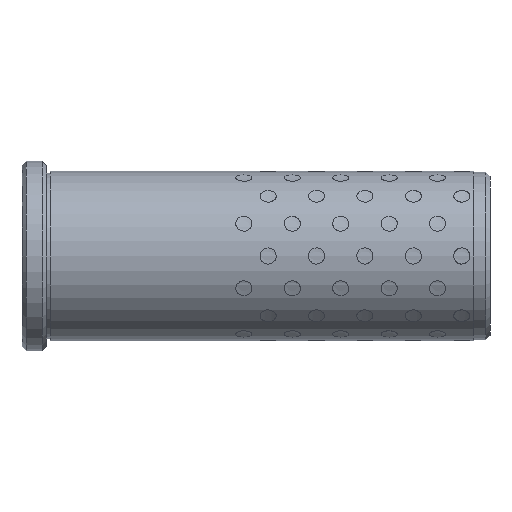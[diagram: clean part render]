
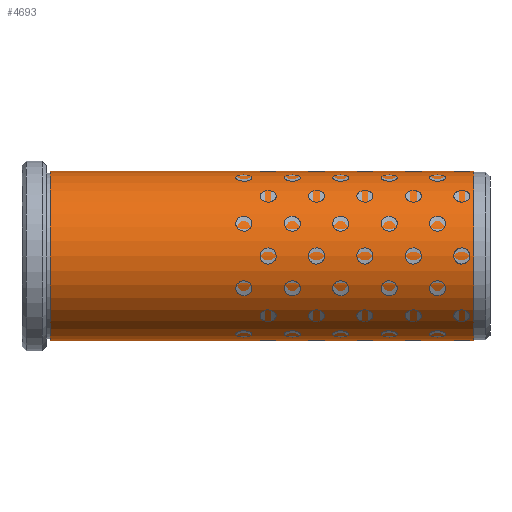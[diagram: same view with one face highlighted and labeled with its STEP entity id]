
A CAD part, left-side view. The second image highlights one B-rep face of the part: STEP entity #4693.
In plain terms, the highlighted cylindrical face has radius 21 mm (diameter 42 mm), a full revolution.
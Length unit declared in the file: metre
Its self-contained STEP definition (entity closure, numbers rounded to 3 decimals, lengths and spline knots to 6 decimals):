
#4693 = ADVANCED_FACE( '', ( #5014, #5015 ), #5016, .T. );
#5014 = FACE_OUTER_BOUND( '', #5731, .T. );
#5015 = FACE_OUTER_BOUND( '', #5732, .T. );
#5016 = CYLINDRICAL_SURFACE( '', #5733, 0.021 );
#5731 = EDGE_LOOP( '', ( #6464 ) );
#5732 = EDGE_LOOP( '', ( #6465 ) );
#5733 = AXIS2_PLACEMENT_3D( '', #6466, #6467, #6468 );
#6464 = ORIENTED_EDGE( '', *, *, #7756, .T. );
#6465 = ORIENTED_EDGE( '', *, *, #7755, .F. );
#6466 = CARTESIAN_POINT( '', ( 0., 0., 0. ) );
#6467 = DIRECTION( '', ( 0., 1., 0. ) );
#6468 = DIRECTION( '', ( 0., 0., -1. ) );
#7755 = EDGE_CURVE( '', #7970, #7970, #7971, .T. );
#7756 = EDGE_CURVE( '', #7972, #7972, #7973, .T. );
#7970 = VERTEX_POINT( '', #8384 );
#7971 = CIRCLE( '', #8385, 0.021 );
#7972 = VERTEX_POINT( '', #8386 );
#7973 = CIRCLE( '', #8387, 0.021 );
#8384 = CARTESIAN_POINT( '', ( 0., 0.004, -0.021 ) );
#8385 = AXIS2_PLACEMENT_3D( '', #18982, #18983, #18984 );
#8386 = CARTESIAN_POINT( '', ( 0., 0.109, -0.021 ) );
#8387 = AXIS2_PLACEMENT_3D( '', #18985, #18986, #18987 );
#18982 = CARTESIAN_POINT( '', ( 0., 0.004, 0. ) );
#18983 = DIRECTION( '', ( 0., -1., 0. ) );
#18984 = DIRECTION( '', ( 0., 0., -1. ) );
#18985 = CARTESIAN_POINT( '', ( 0., 0.109, 0. ) );
#18986 = DIRECTION( '', ( 0., -1., 0. ) );
#18987 = DIRECTION( '', ( 0., 0., -1. ) );
